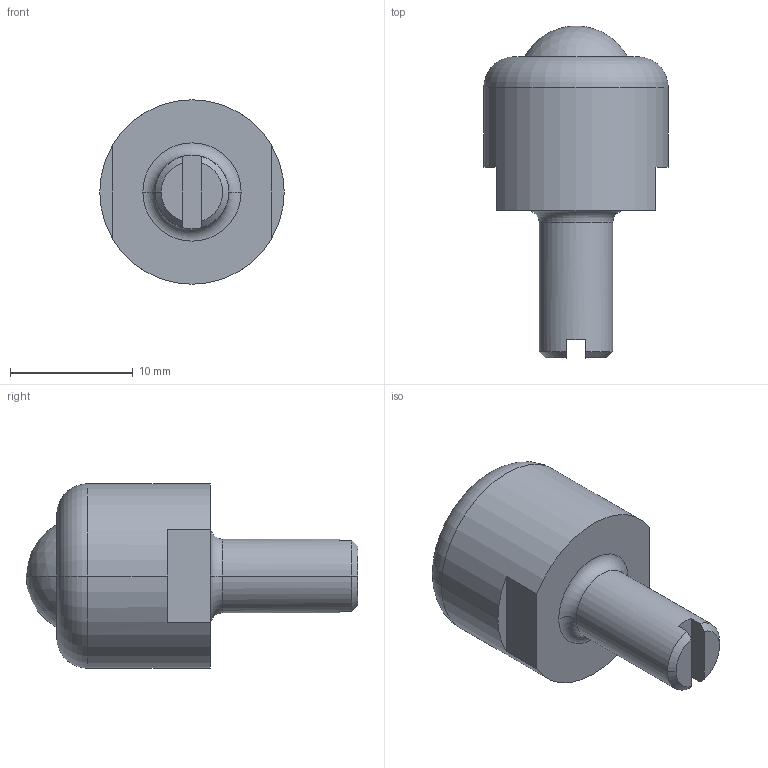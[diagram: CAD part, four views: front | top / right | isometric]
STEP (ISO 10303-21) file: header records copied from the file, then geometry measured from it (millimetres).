
FILE_DESCRIPTION (( 'STEP AP203' ), '1' );
FILE_NAME ('pv10b.STEP', '2015-11-27T00:59:42', ( '' ), ( '' ), 'SwSTEP 2.0', 'SolidWorks 2013', '' );
FILE_SCHEMA (( 'CONFIG_CONTROL_DESIGN' ));
Length unit declared in the file: millimetre
Products named in the file (1): pv10b
Bounding box: 15 x 27 x 15 mm (x, y, z)
Volume: 2520.6 mm3; surface area: 1132.3 mm2
Topology: 1 solids, 1 shells, 24 faces, 56 edges, 36 vertices
Faces by surface type: plane 11, cylinder 4, torus 4, cone 3, sphere 2
Entity records: 780 total; most frequent: DIRECTION 133, CARTESIAN_POINT 129, ORIENTED_EDGE 112, AXIS2_PLACEMENT_3D 56, EDGE_CURVE 56, VERTEX_POINT 36, CIRCLE 31, EDGE_LOOP 26
